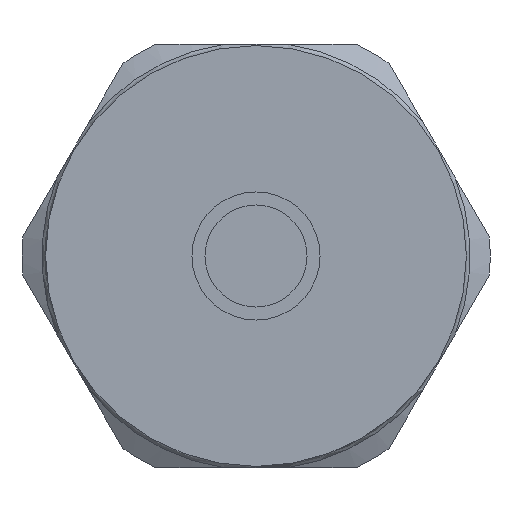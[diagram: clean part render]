
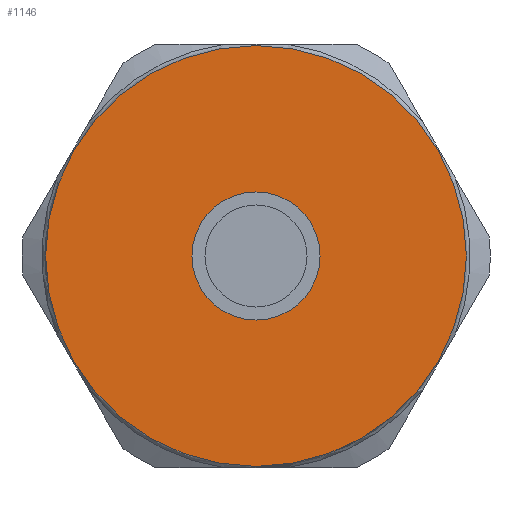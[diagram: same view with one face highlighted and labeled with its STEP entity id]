
A CAD part, front view. The second image highlights one B-rep face of the part: STEP entity #1146.
In plain terms, the highlighted planar face has unit normal (0, -1, 0).
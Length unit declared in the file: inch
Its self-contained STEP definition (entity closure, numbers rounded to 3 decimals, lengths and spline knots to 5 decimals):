
#15=FACE_BOUND('',#203,.T.);
#33=PLANE('',#1283);
#141=FACE_OUTER_BOUND('',#202,.T.);
#202=EDGE_LOOP('',(#912,#913));
#203=EDGE_LOOP('',(#914,#915));
#345=CIRCLE('',#1234,0.435);
#346=CIRCLE('',#1235,0.435);
#367=CIRCLE('',#1277,0.1325);
#368=CIRCLE('',#1278,0.1325);
#448=VERTEX_POINT('',#1945);
#449=VERTEX_POINT('',#1947);
#483=VERTEX_POINT('',#2121);
#484=VERTEX_POINT('',#2122);
#580=EDGE_CURVE('',#448,#449,#345,.T.);
#581=EDGE_CURVE('',#449,#448,#346,.T.);
#635=EDGE_CURVE('',#483,#484,#367,.T.);
#636=EDGE_CURVE('',#484,#483,#368,.T.);
#912=ORIENTED_EDGE('',*,*,#581,.F.);
#913=ORIENTED_EDGE('',*,*,#580,.F.);
#914=ORIENTED_EDGE('',*,*,#635,.T.);
#915=ORIENTED_EDGE('',*,*,#636,.T.);
#1146=ADVANCED_FACE('',(#141,#15),#33,.T.);
#1234=AXIS2_PLACEMENT_3D('',#1948,#1435,#1436);
#1235=AXIS2_PLACEMENT_3D('',#1949,#1437,#1438);
#1277=AXIS2_PLACEMENT_3D('',#2123,#1533,#1534);
#1278=AXIS2_PLACEMENT_3D('',#2124,#1535,#1536);
#1283=AXIS2_PLACEMENT_3D('',#2133,#1547,#1548);
#1435=DIRECTION('center_axis',(0.,1.,0.));
#1436=DIRECTION('ref_axis',(-1.,0.,0.));
#1437=DIRECTION('center_axis',(0.,1.,0.));
#1438=DIRECTION('ref_axis',(-1.,0.,0.));
#1533=DIRECTION('center_axis',(0.,1.,0.));
#1534=DIRECTION('ref_axis',(1.,0.,0.));
#1535=DIRECTION('center_axis',(0.,1.,0.));
#1536=DIRECTION('ref_axis',(1.,0.,0.));
#1547=DIRECTION('center_axis',(0.,-1.,0.));
#1548=DIRECTION('ref_axis',(0.,0.,-1.));
#1945=CARTESIAN_POINT('',(0.435,-1.52,0.));
#1947=CARTESIAN_POINT('',(-0.435,-1.52,0.));
#1948=CARTESIAN_POINT('Origin',(0.,-1.52,0.));
#1949=CARTESIAN_POINT('Origin',(0.,-1.52,0.));
#2121=CARTESIAN_POINT('',(0.1325,-1.52,0.));
#2122=CARTESIAN_POINT('',(-0.1325,-1.52,0.));
#2123=CARTESIAN_POINT('Origin',(0.,-1.52,0.));
#2124=CARTESIAN_POINT('Origin',(0.,-1.52,0.));
#2133=CARTESIAN_POINT('Origin',(-0.2175,-1.52,0.));
